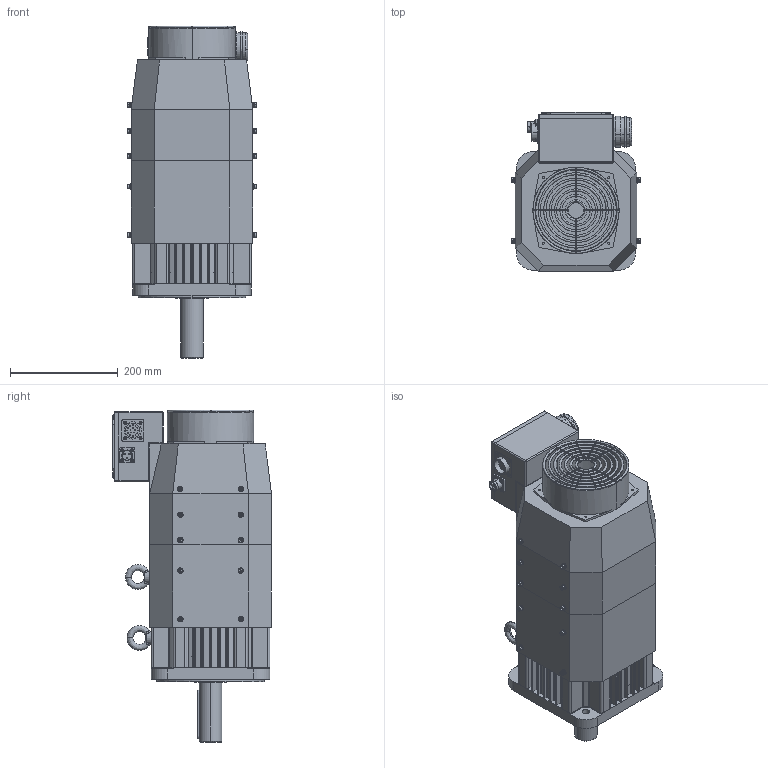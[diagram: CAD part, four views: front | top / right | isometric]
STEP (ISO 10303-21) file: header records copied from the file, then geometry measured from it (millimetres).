
FILE_DESCRIPTION (( 'STEP AP203' ), '1' );
FILE_NAME ('EMB-75D(湍惕掅).STEP', '2020-04-17T06:34:30', ( '' ), ( '' ), 'SwSTEP 2.0', 'SolidWorks 2018', '' );
FILE_SCHEMA (( 'CONFIG_CONTROL_DESIGN' ));
Products named in the file (1): EMB-75D(湍惕掅)
Bounding box: 240.6 x 295 x 616 mm (x, y, z)
Volume: 12165736.7 mm3; surface area: 1561463 mm2
Topology: 108 solids, 109 shells, 2566 faces, 6169 edges, 3848 vertices
Faces by surface type: plane 1144, cylinder 954, cone 238, bspline 146, torus 76, sphere 8
Entity records: 81255 total; most frequent: CARTESIAN_POINT 21132, DIRECTION 13062, ORIENTED_EDGE 12058, EDGE_CURVE 6029, AXIS2_PLACEMENT_3D 5026, VERTEX_POINT 3848, LINE 3010, VECTOR 3010
